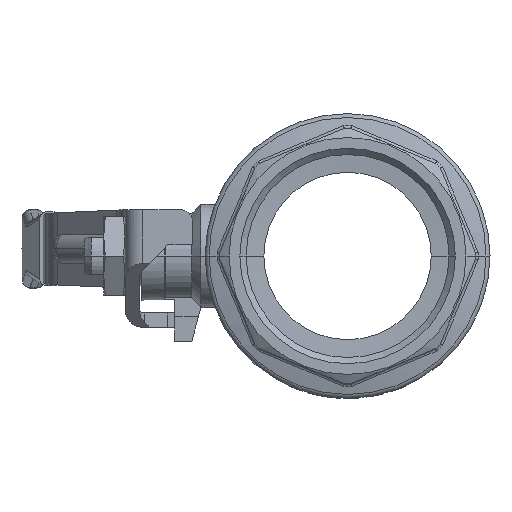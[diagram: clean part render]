
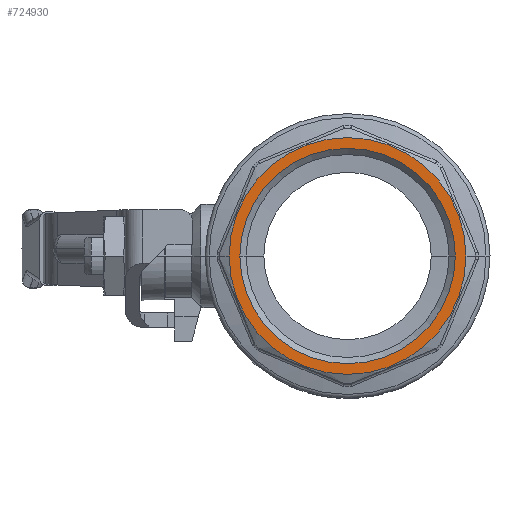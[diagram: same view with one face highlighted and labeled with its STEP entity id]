
A CAD part, left-side view. The second image highlights one B-rep face of the part: STEP entity #724930.
In plain terms, the highlighted planar face has unit normal (-1, 0, 0) as drawn and (1, 0, 0) by its records, which use the part's own axes.
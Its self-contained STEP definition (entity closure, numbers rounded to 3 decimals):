
#724290=CARTESIAN_POINT('',(51.5,-33.25,0.));
#724300=VERTEX_POINT('',#724290);
#724470=CARTESIAN_POINT('',(51.5,33.25,0.));
#724480=VERTEX_POINT('',#724470);
#724510=CARTESIAN_POINT('',(51.5,0.,0.));
#724520=DIRECTION('',(1.,0.,0.));
#724530=DIRECTION('',(0.,-1.,0.));
#724540=AXIS2_PLACEMENT_3D('',#724510,#724520,#724530);
#724550=CIRCLE('',#724540,33.25);
#724560=EDGE_CURVE('',#724480,#724300,#724550,.T.);
#724680=CARTESIAN_POINT('',(51.5,-31.75,0.));
#724690=DIRECTION('',(1.,0.,0.));
#724700=DIRECTION('',(0.,1.,0.));
#724710=AXIS2_PLACEMENT_3D('',#724680,#724690,#724700);
#724720=PLANE('',#724710);
#724730=CARTESIAN_POINT('',(51.5,0.,0.));
#724740=DIRECTION('',(1.,0.,0.));
#724750=DIRECTION('',(0.,-1.,0.));
#724760=AXIS2_PLACEMENT_3D('',#724730,#724740,#724750);
#724770=CIRCLE('',#724760,30.25);
#724780=CARTESIAN_POINT('',(51.5,-30.25,0.));
#724790=VERTEX_POINT('',#724780);
#724800=CARTESIAN_POINT('',(51.5,30.25,0.));
#724810=VERTEX_POINT('',#724800);
#724820=EDGE_CURVE('',#724790,#724810,#724770,.T.);
#724830=ORIENTED_EDGE('',*,*,#724820,.F.);
#724840=EDGE_CURVE('',#724810,#724790,#724770,.T.);
#724850=ORIENTED_EDGE('',*,*,#724840,.F.);
#724860=EDGE_LOOP('',(#724850,#724830));
#724870=FACE_BOUND('',#724860,.T.);
#724880=EDGE_CURVE('',#724300,#724480,#724550,.T.);
#724890=ORIENTED_EDGE('',*,*,#724880,.T.);
#724900=ORIENTED_EDGE('',*,*,#724560,.T.);
#724910=EDGE_LOOP('',(#724900,#724890));
#724920=FACE_OUTER_BOUND('',#724910,.T.);
#724930=ADVANCED_FACE('',(#724870,#724920),#724720,.T.);
